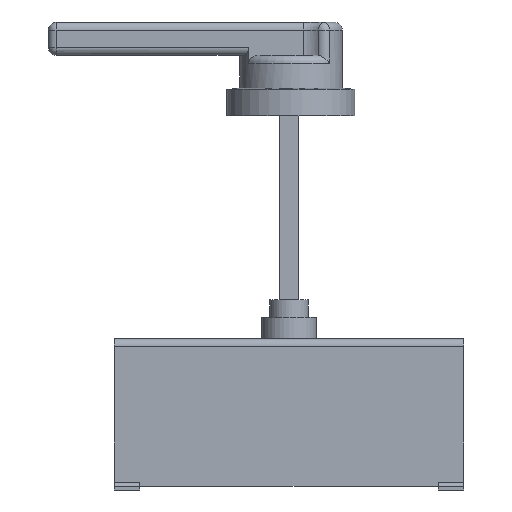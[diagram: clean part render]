
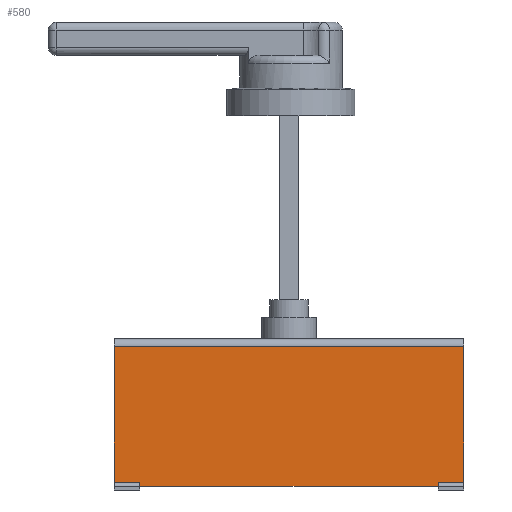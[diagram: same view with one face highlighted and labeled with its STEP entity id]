
A CAD part, front view. The second image highlights one B-rep face of the part: STEP entity #580.
In plain terms, the highlighted planar face has unit normal (0, -1, 0).
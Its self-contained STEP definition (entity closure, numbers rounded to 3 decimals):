
#12 = VERTEX_POINT ( 'NONE', #2446 ) ;
#566 = DIRECTION ( 'NONE',  ( 0., 0., -1. ) ) ;
#572 = VERTEX_POINT ( 'NONE', #5259 ) ;
#580 = ADVANCED_FACE ( 'NONE', ( #2012 ), #3074, .F. ) ;
#639 = CARTESIAN_POINT ( 'NONE',  ( -77., -93., 4. ) ) ;
#645 = ORIENTED_EDGE ( 'NONE', *, *, #4636, .T. ) ;
#726 = VERTEX_POINT ( 'NONE', #3168 ) ;
#846 = CARTESIAN_POINT ( 'NONE',  ( -90., -93., 4. ) ) ;
#867 = DIRECTION ( 'NONE',  ( 0., 1., 0. ) ) ;
#934 = EDGE_CURVE ( 'NONE', #1354, #4972, #2152, .T. ) ;
#973 = LINE ( 'NONE', #5476, #4550 ) ;
#981 = EDGE_LOOP ( 'NONE', ( #3520, #1328, #3116, #5436, #645, #4369, #3835, #3872 ) ) ;
#1028 = LINE ( 'NONE', #5031, #5130 ) ;
#1087 = CARTESIAN_POINT ( 'NONE',  ( 77., -93., 4. ) ) ;
#1162 = VERTEX_POINT ( 'NONE', #1087 ) ;
#1176 = CARTESIAN_POINT ( 'NONE',  ( -90., -93., 74. ) ) ;
#1182 = DIRECTION ( 'NONE',  ( 0., 0., -1. ) ) ;
#1328 = ORIENTED_EDGE ( 'NONE', *, *, #3779, .T. ) ;
#1354 = VERTEX_POINT ( 'NONE', #3988 ) ;
#1657 = DIRECTION ( 'NONE',  ( 0., 0., 1. ) ) ;
#1748 = LINE ( 'NONE', #5586, #5438 ) ;
#1880 = DIRECTION ( 'NONE',  ( -1., 0., 0. ) ) ;
#2012 = FACE_OUTER_BOUND ( 'NONE', #981, .T. ) ;
#2141 = DIRECTION ( 'NONE',  ( 1., 0., 0. ) ) ;
#2152 = LINE ( 'NONE', #2596, #5114 ) ;
#2446 = CARTESIAN_POINT ( 'NONE',  ( 90., -93., 74. ) ) ;
#2540 = VECTOR ( 'NONE', #1657, 1000. ) ;
#2596 = CARTESIAN_POINT ( 'NONE',  ( -77., -93., 2. ) ) ;
#2764 = VERTEX_POINT ( 'NONE', #1176 ) ;
#3074 = PLANE ( 'NONE',  #5223 ) ;
#3116 = ORIENTED_EDGE ( 'NONE', *, *, #3679, .T. ) ;
#3155 = CARTESIAN_POINT ( 'NONE',  ( -90., -93., 78. ) ) ;
#3168 = CARTESIAN_POINT ( 'NONE',  ( 90., -93., 4. ) ) ;
#3390 = CARTESIAN_POINT ( 'NONE',  ( -77., -93., 2. ) ) ;
#3408 = CARTESIAN_POINT ( 'NONE',  ( 77., -93., 2. ) ) ;
#3520 = ORIENTED_EDGE ( 'NONE', *, *, #4117, .F. ) ;
#3679 = EDGE_CURVE ( 'NONE', #1162, #726, #1748, .T. ) ;
#3778 = VECTOR ( 'NONE', #4701, 1000. ) ;
#3779 = EDGE_CURVE ( 'NONE', #572, #1162, #4671, .T. ) ;
#3829 = LINE ( 'NONE', #4987, #3909 ) ;
#3835 = ORIENTED_EDGE ( 'NONE', *, *, #4464, .T. ) ;
#3872 = ORIENTED_EDGE ( 'NONE', *, *, #934, .T. ) ;
#3909 = VECTOR ( 'NONE', #5503, 1000. ) ;
#3988 = CARTESIAN_POINT ( 'NONE',  ( -77., -93., 4. ) ) ;
#4102 = CARTESIAN_POINT ( 'NONE',  ( -90., -93., 74. ) ) ;
#4117 = EDGE_CURVE ( 'NONE', #572, #4972, #973, .T. ) ;
#4194 = DIRECTION ( 'NONE',  ( -1., 0., 0. ) ) ;
#4369 = ORIENTED_EDGE ( 'NONE', *, *, #5418, .T. ) ;
#4464 = EDGE_CURVE ( 'NONE', #4749, #1354, #4938, .T. ) ;
#4471 = LINE ( 'NONE', #4102, #4546 ) ;
#4546 = VECTOR ( 'NONE', #4194, 1000. ) ;
#4550 = VECTOR ( 'NONE', #1880, 1000. ) ;
#4636 = EDGE_CURVE ( 'NONE', #12, #2764, #4471, .T. ) ;
#4671 = LINE ( 'NONE', #3408, #2540 ) ;
#4701 = DIRECTION ( 'NONE',  ( 1., 0., 0. ) ) ;
#4749 = VERTEX_POINT ( 'NONE', #846 ) ;
#4938 = LINE ( 'NONE', #639, #3778 ) ;
#4972 = VERTEX_POINT ( 'NONE', #3390 ) ;
#4987 = CARTESIAN_POINT ( 'NONE',  ( 90., -93., 78. ) ) ;
#5031 = CARTESIAN_POINT ( 'NONE',  ( -90., -93., 78. ) ) ;
#5065 = EDGE_CURVE ( 'NONE', #12, #726, #3829, .T. ) ;
#5114 = VECTOR ( 'NONE', #1182, 1000. ) ;
#5130 = VECTOR ( 'NONE', #566, 1000. ) ;
#5223 = AXIS2_PLACEMENT_3D ( 'NONE', #3155, #867, #5733 ) ;
#5259 = CARTESIAN_POINT ( 'NONE',  ( 77., -93., 2. ) ) ;
#5418 = EDGE_CURVE ( 'NONE', #2764, #4749, #1028, .T. ) ;
#5436 = ORIENTED_EDGE ( 'NONE', *, *, #5065, .F. ) ;
#5438 = VECTOR ( 'NONE', #2141, 1000. ) ;
#5476 = CARTESIAN_POINT ( 'NONE',  ( -90., -93., 2. ) ) ;
#5503 = DIRECTION ( 'NONE',  ( 0., 0., -1. ) ) ;
#5586 = CARTESIAN_POINT ( 'NONE',  ( 90., -93., 4. ) ) ;
#5733 = DIRECTION ( 'NONE',  ( 0., 0., 1. ) ) ;
